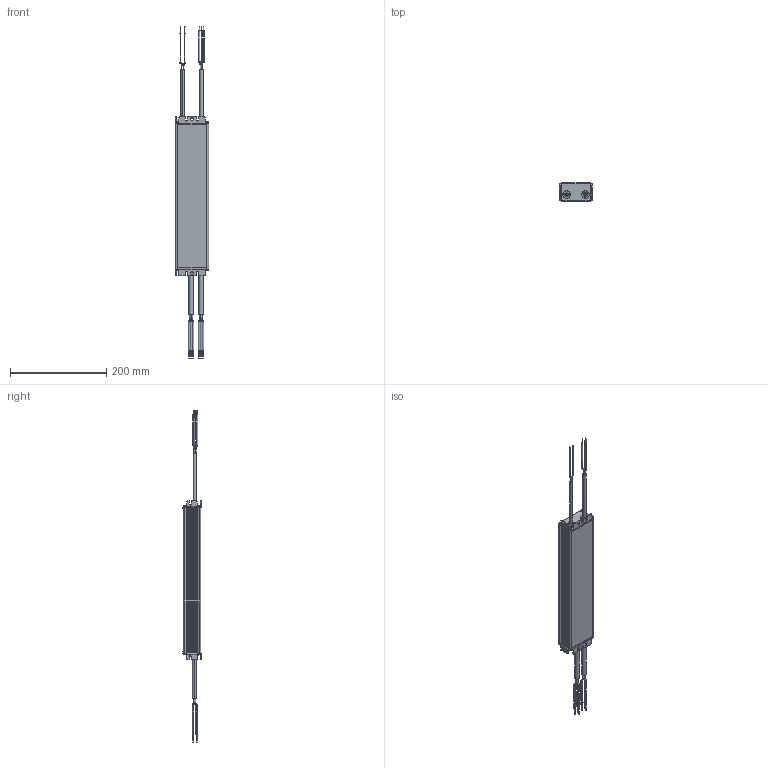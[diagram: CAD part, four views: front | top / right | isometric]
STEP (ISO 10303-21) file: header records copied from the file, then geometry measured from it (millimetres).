
FILE_DESCRIPTION (( 'STEP AP214' ), '1' );
FILE_NAME ('4489877swm000.step', '2023-06-21T10:02:22', ( 'Windows User' ), ( '' ), 'SwSTEP 2.0', 'SolidWorks 2020', '' );
FILE_SCHEMA (( 'AUTOMOTIVE_DESIGN' ));
Length unit declared in the file: millimetre
Products named in the file (1): 4489877swm000
Bounding box: 69.11 x 37.9 x 688.25 mm (x, y, z)
Volume: 720413.7 mm3; surface area: 95322.6 mm2
Topology: 1 solids, 1 shells, 530 faces, 1298 edges, 808 vertices
Faces by surface type: plane 238, cylinder 218, torus 58, cone 16
Entity records: 21384 total; most frequent: DIRECTION 2934, CARTESIAN_POINT 2637, ORIENTED_EDGE 2596, EDGE_CURVE 1298, AXIS2_PLACEMENT_3D 1105, VERTEX_POINT 808, VECTOR 724, LINE 724
